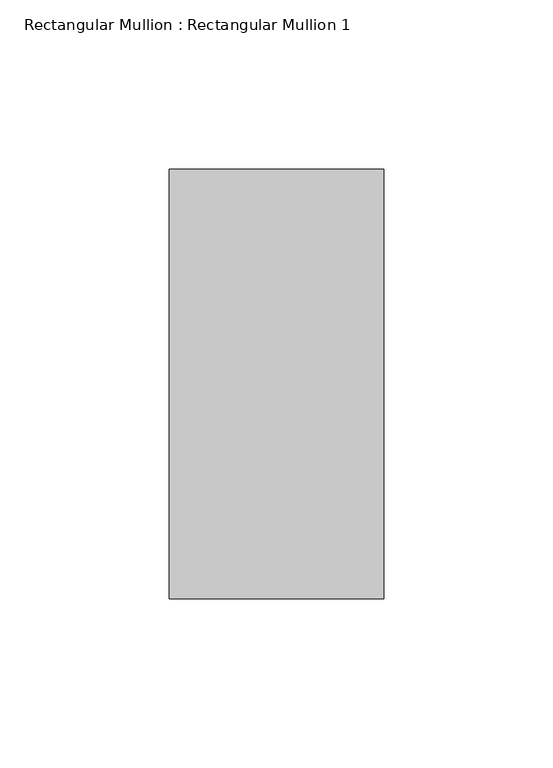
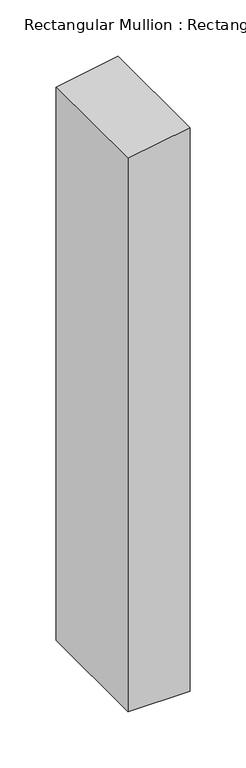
"""IFC4 building model written with IfcOpenShell, lengths in millimetres: member geometry, Rectangular Mullion : Rectangular Mullion 1."""

from ifc_helpers import new_model, si_unit, frame, origin, place, context, project, spatial, polyline, outline, extrude, source, transform, mapped, element, save


def rectangular_mullion_rectangular_mullion_1_0f879c9f(model_context):
    return source(origin(), model_context, "Body", "SweptSolid", [
        extrude(outline(polyline([(0.0, 0.0), (-11.1967633, -63.5), (-609.97692, -63.5), (-609.97692, 0.0), (0.0, 0.0)])), frame((0.0, -63.5, 0.0), z_axis=(0.0, 1.0, 0.0), x_axis=(0.0, 0.0, 1.0)), (0.0, 0.0, 1.0), 127.0),
    ])


if __name__ == "__main__":
    model = new_model("IFC4")
    model_context = context("Model", 3, world=origin())
    ifc_project = project(units=[si_unit("LENGTHUNIT", "METRE", prefix="MILLI")], contexts=[model_context])
    site = spatial("IfcSite", under=ifc_project)
    building = spatial("IfcBuilding", under=site)
    placement = place(None, origin())
    rectangular_mullion_rectangular_mullion_1_shape = rectangular_mullion_rectangular_mullion_1_0f879c9f(model_context)
    element("IfcMember", 1, ObjectType="Rectangular Mullion : Rectangular Mullion 1", at=placement, inside=building, context=model_context, shape_type="MappedRepresentation", body=[
        mapped(rectangular_mullion_rectangular_mullion_1_shape, transform((0.0, 0.0, 0.0), x_axis=(1.0, 0.0, 0.0), y_axis=(0.0, 1.0, 0.0), z_axis=(0.0, 0.0, 1.0))),
    ])
    save(model, "model.ifc")
